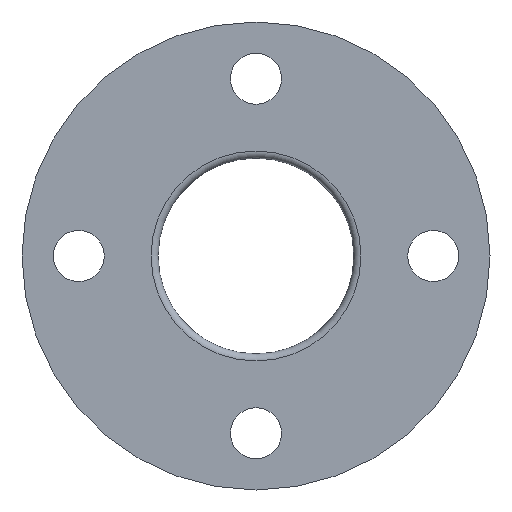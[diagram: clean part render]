
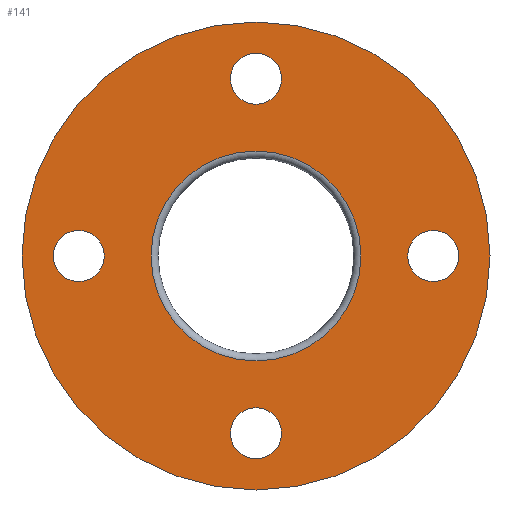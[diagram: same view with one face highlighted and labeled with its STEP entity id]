
A CAD part, front view. The second image highlights one B-rep face of the part: STEP entity #141.
In plain terms, the highlighted planar face has unit normal (0, -1, 0).
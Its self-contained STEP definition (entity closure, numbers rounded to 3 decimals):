
#13=PLANE($,#156);
#23=FACE_BOUND($,#52,.T.);
#24=FACE_BOUND($,#53,.T.);
#25=FACE_BOUND($,#54,.T.);
#26=FACE_BOUND($,#55,.T.);
#27=FACE_BOUND($,#56,.T.);
#41=FACE_OUTER_BOUND($,#51,.T.);
#51=EDGE_LOOP($,(#116));
#52=EDGE_LOOP($,(#117));
#53=EDGE_LOOP($,(#118));
#54=EDGE_LOOP($,(#119));
#55=EDGE_LOOP($,(#120));
#56=EDGE_LOOP($,(#121));
#74=CIRCLE($,#153,37.);
#76=CIRCLE($,#157,82.5);
#77=CIRCLE($,#158,9.);
#78=CIRCLE($,#159,9.);
#79=CIRCLE($,#160,9.);
#80=CIRCLE($,#161,9.);
#87=VERTEX_POINT($,#223);
#89=VERTEX_POINT($,#229);
#90=VERTEX_POINT($,#231);
#91=VERTEX_POINT($,#233);
#92=VERTEX_POINT($,#235);
#93=VERTEX_POINT($,#237);
#100=EDGE_CURVE($,#87,#87,#74,.T.);
#102=EDGE_CURVE($,#89,#89,#76,.T.);
#103=EDGE_CURVE($,#90,#90,#77,.T.);
#104=EDGE_CURVE($,#91,#91,#78,.T.);
#105=EDGE_CURVE($,#92,#92,#79,.T.);
#106=EDGE_CURVE($,#93,#93,#80,.T.);
#116=ORIENTED_EDGE($,*,*,#102,.F.);
#117=ORIENTED_EDGE($,*,*,#103,.T.);
#118=ORIENTED_EDGE($,*,*,#104,.T.);
#119=ORIENTED_EDGE($,*,*,#105,.T.);
#120=ORIENTED_EDGE($,*,*,#106,.T.);
#121=ORIENTED_EDGE($,*,*,#100,.F.);
#141=ADVANCED_FACE($,(#41,#23,#24,#25,#26,#27),#13,.T.);
#153=AXIS2_PLACEMENT_3D($,#224,#179,#180);
#156=AXIS2_PLACEMENT_3D($,#228,#185,#186);
#157=AXIS2_PLACEMENT_3D($,#230,#187,#188);
#158=AXIS2_PLACEMENT_3D($,#232,#189,#190);
#159=AXIS2_PLACEMENT_3D($,#234,#191,#192);
#160=AXIS2_PLACEMENT_3D($,#236,#193,#194);
#161=AXIS2_PLACEMENT_3D($,#238,#195,#196);
#179=DIRECTION('center_axis',(0.,-1.,0.));
#180=DIRECTION('ref_axis',(1.,0.,0.));
#185=DIRECTION('center_axis',(0.,-1.,0.));
#186=DIRECTION('ref_axis',(0.,0.,-1.));
#187=DIRECTION('center_axis',(0.,1.,0.));
#188=DIRECTION('ref_axis',(-1.,0.,0.));
#189=DIRECTION('center_axis',(0.,1.,0.));
#190=DIRECTION('ref_axis',(1.,0.,0.));
#191=DIRECTION('center_axis',(0.,1.,0.));
#192=DIRECTION('ref_axis',(0.,0.,-1.));
#193=DIRECTION('center_axis',(0.,1.,0.));
#194=DIRECTION('ref_axis',(-1.,0.,0.));
#195=DIRECTION('center_axis',(0.,1.,0.));
#196=DIRECTION('ref_axis',(0.,0.,1.));
#223=CARTESIAN_POINT('',(-37.,0.,0.));
#224=CARTESIAN_POINT('Origin',(0.,0.,0.));
#228=CARTESIAN_POINT('Origin',(-41.25,0.,0.));
#229=CARTESIAN_POINT('',(-82.5,0.,0.));
#230=CARTESIAN_POINT('Origin',(0.,0.,0.));
#231=CARTESIAN_POINT('',(53.5,0.,0.));
#232=CARTESIAN_POINT('Origin',(62.5,0.,0.));
#233=CARTESIAN_POINT('',(0.,0.,-53.5));
#234=CARTESIAN_POINT('Origin',(0.,0.,-62.5));
#235=CARTESIAN_POINT('',(-53.5,0.,0.));
#236=CARTESIAN_POINT('Origin',(-62.5,0.,0.));
#237=CARTESIAN_POINT('',(0.,0.,53.5));
#238=CARTESIAN_POINT('Origin',(0.,0.,62.5));
